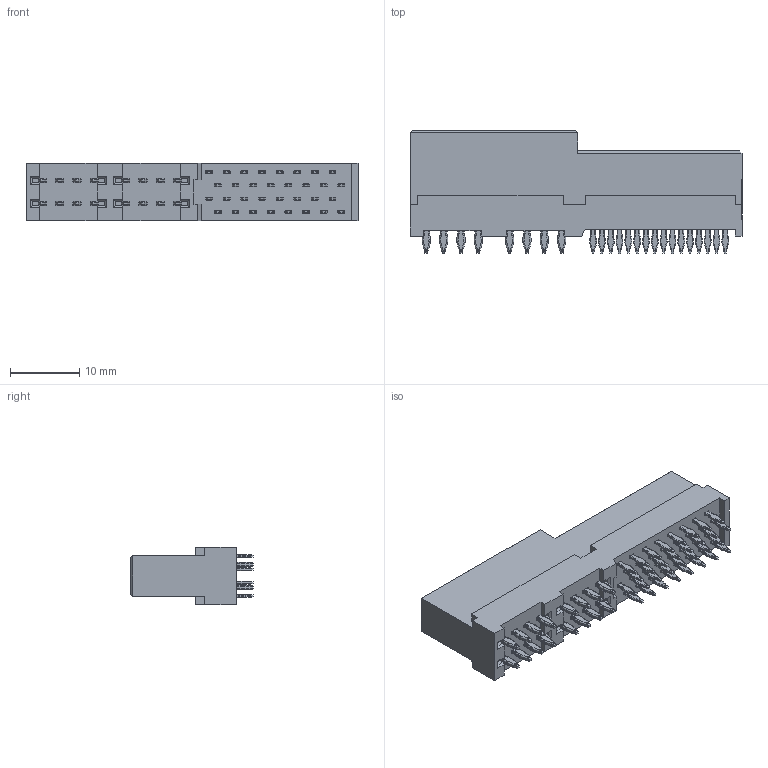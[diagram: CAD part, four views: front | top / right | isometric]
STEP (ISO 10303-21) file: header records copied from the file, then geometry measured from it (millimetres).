
FILE_DESCRIPTION (( 'STEP AP203' ), '1' );
FILE_NAME ('9392-2P04S32N11CB30PA-11.STEP', '2023-07-06T06:59:37', ( '' ), ( '' ), 'SwSTEP 2.0', 'SolidWorks 2011', '' );
FILE_SCHEMA (( 'CONFIG_CONTROL_DESIGN' ));
Products named in the file (1): 9392-2P04S32N11CB30PA-11
Bounding box: 47.82 x 17.71 x 8.32 mm (x, y, z)
Volume: 3391.4 mm3; surface area: 4047.6 mm2
Topology: 1 solids, 17 shells, 2790 faces, 7281 edges, 4552 vertices
Faces by surface type: plane 1054, torus 990, cylinder 728, bspline 18
Entity records: 90012 total; most frequent: CARTESIAN_POINT 22076, ORIENTED_EDGE 14562, DIRECTION 14075, EDGE_CURVE 7281, AXIS2_PLACEMENT_3D 5379, VERTEX_POINT 4552, VECTOR 3317, LINE 3317
